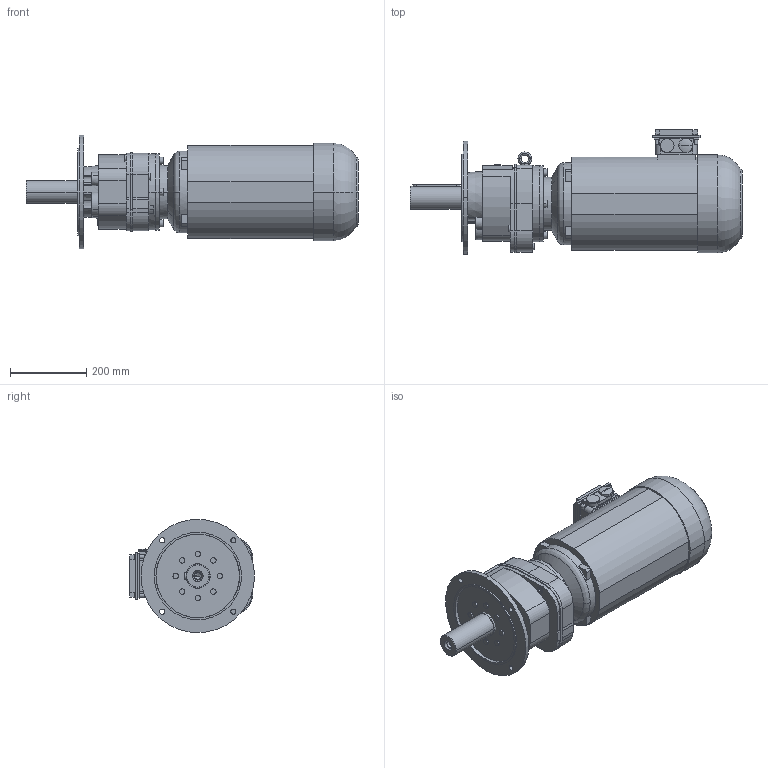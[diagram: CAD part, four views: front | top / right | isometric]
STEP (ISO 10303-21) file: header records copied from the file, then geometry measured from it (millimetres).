
FILE_DESCRIPTION(('STEP AP214'),'1');
FILE_NAME('STEP-File.stp','2018-01-01T00:00:00',(' '),('KEB'),' ','KEB-DRIVE',' ');
FILE_SCHEMA(('AUTOMOTIVE_DESIGN { 1 0 10303 214 1 1 1 1 }'));
Length unit declared in the file: millimetre
Products named in the file (10): g4b; w4_we_60x140; c4_300; ca4; dm132_kkn; kk10; PLUG_M32; SCREW-PLUG_M32; ndm132; ZG42 DM132MB4§CAD13
Assembly tree (9 placements, depth 2):
  ZG42 DM132MB4§CAD13
    g4b
    w4_we_60x140
    c4_300
    ca4
    dm132_kkn
    kk10
    PLUG_M32
    SCREW-PLUG_M32
    ndm132
Bounding box: 873.5 x 328.82 x 298.43 mm (x, y, z)
Volume: 32386795.7 mm3; surface area: 1182325 mm2
Topology: 9 solids, 9 shells, 365 faces, 922 edges, 613 vertices
Faces by surface type: plane 199, cylinder 119, cone 22, torus 21, bspline 4
Entity records: 15091 total; most frequent: CARTESIAN_POINT 6316, ORIENTED_EDGE 1840, DIRECTION 1645, EDGE_CURVE 920, VERTEX_POINT 613, AXIS2_PLACEMENT_3D 569, VECTOR 507, LINE 507
